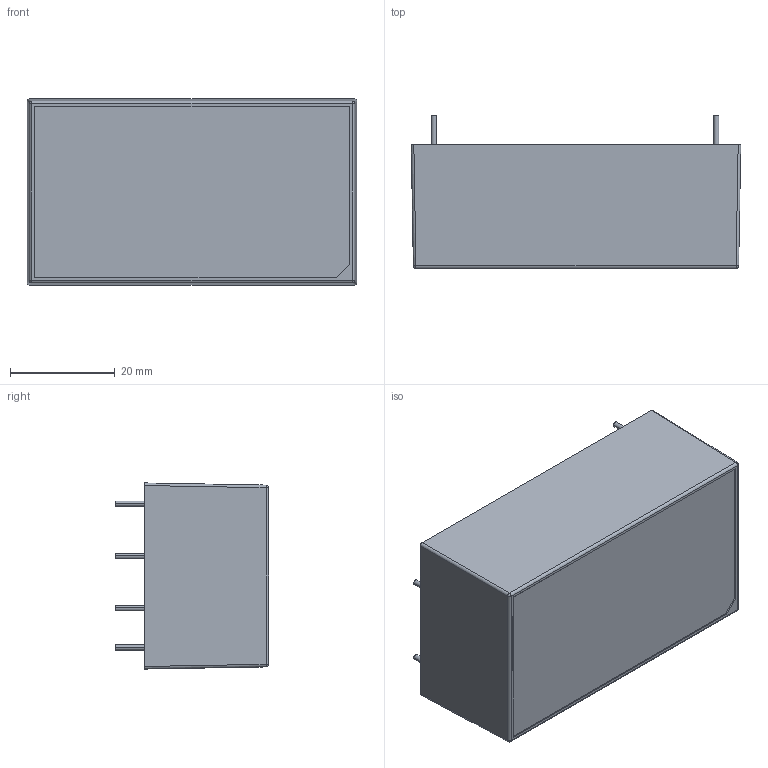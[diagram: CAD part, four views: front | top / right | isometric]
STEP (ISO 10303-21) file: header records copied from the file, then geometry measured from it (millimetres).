
FILE_DESCRIPTION (( 'STEP AP203' ), '1' );
FILE_NAME ('CFM20SXXX-E ¦¨«~¹Ï (M-B115-F)(V1.0)-1130709.STEP', '2024-08-20T00:34:41', ( 'cincon' ), ( '' ), 'SwSTEP 2.0', 'SolidWorks 2020', '' );
FILE_SCHEMA (( 'CONFIG_CONTROL_DESIGN' ));
Length unit declared in the file: millimetre
Products named in the file (22): VCE20變壓器-1070801; Electrolitic Capacitor Radial 10x17; ｶ鷄IN G7200030020-1070503; 8x12.6mm電容; CFM40M UZ2 990210; 8.2x17mm電容; CFM04 CY1示意圖; CFM20S BASE-1100408; 電晶體 105,04,14; VCE20灌膠口; CFM20-P 成品圖-1100311; CFM20-P PCB-1100311; CFM20S CASE-1100408; CFM20SXXX-E 成品圖 (M-B115-F)(V1.0)-1130709; CFM20 L1示意圖-1090826; Electrolitic Capacitor Radial (5X11.8); 電晶體FCH10A20 TO-220F示意圖; D4
Assembly tree (23 placements, depth 3):
  CFM20SXXX-E 成品圖 (M-B115-F)(V1.0)-1130709
    CFM20S CASE-1100408
    CFM20S BASE-1100408
      CFM20S BASE-1100408
    CFM20-P 成品圖-1100311
      CFM20-P PCB-1100311
      D4
      VCE20變壓器-1070801
      Electrolitic Capacitor Radial (5X11.8)
      電晶體 105,04,14
      電晶體FCH10A20 TO-220F示意圖
      8x12.6mm電容
      8.2x17mm電容
      Electrolitic Capacitor Radial 10x17  x2
      CFM04 CY1示意圖  x2
      CFM40M UZ2 990210
      CFM20 L1示意圖-1090826
    ｶ鷄IN G7200030020-1070503
    ｶ鷄IN G7200030020-1070503
    ｶ鷄IN G7200030020-1070503
    ｶ鷄IN G7200030020-1070503
    VCE20灌膠口
Bounding box: 63.04 x 29.3 x 35.6 mm (x, y, z)
Volume: 22798.7 mm3; surface area: 30126.4 mm2
Topology: 25 solids, 25 shells, 892 faces, 2238 edges, 1433 vertices
Faces by surface type: plane 504, cylinder 216, torus 92, bspline 68, cone 8, sphere 4
Entity records: 31093 total; most frequent: CARTESIAN_POINT 8695, ORIENTED_EDGE 4170, DIRECTION 4132, EDGE_CURVE 2085, AXIS2_PLACEMENT_3D 1379, LINE 1374, VECTOR 1374, VERTEX_POINT 1345
